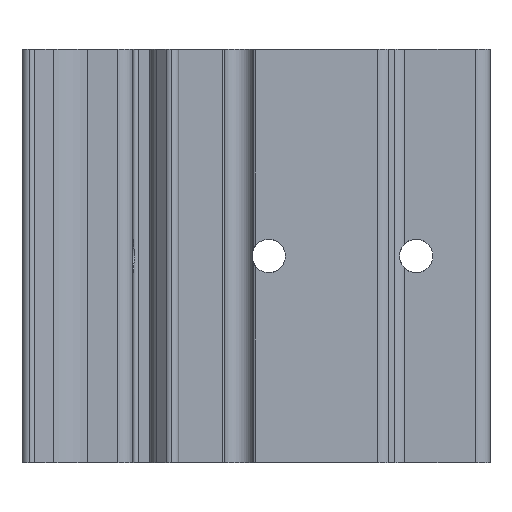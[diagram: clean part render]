
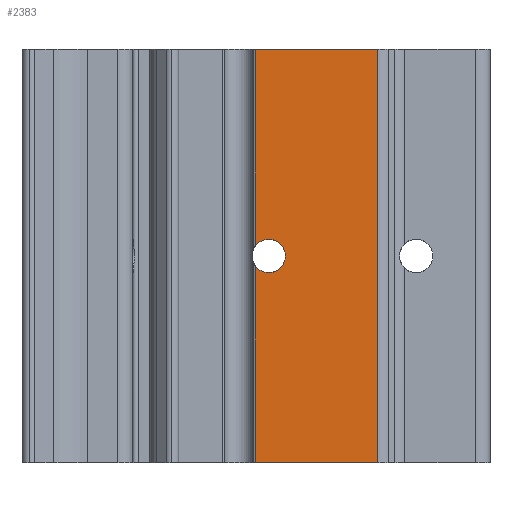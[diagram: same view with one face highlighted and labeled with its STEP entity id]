
A CAD part, left-side view. The second image highlights one B-rep face of the part: STEP entity #2383.
In plain terms, the highlighted planar face has unit normal (-1, 0, 0).
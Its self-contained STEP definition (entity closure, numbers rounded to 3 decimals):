
#31 = CARTESIAN_POINT ( 'NONE',  ( -25.5, 45., 3.4 ) ) ;
#33 = CIRCLE ( 'NONE', #2004, 3.4 ) ;
#63 = EDGE_CURVE ( 'NONE', #500, #2337, #33, .T. ) ;
#82 = CARTESIAN_POINT ( 'NONE',  ( -25.5, 47.77, 42. ) ) ;
#110 = LINE ( 'NONE', #346, #2392 ) ;
#119 = CARTESIAN_POINT ( 'NONE',  ( -25.5, 47.77, 42. ) ) ;
#125 = CARTESIAN_POINT ( 'NONE',  ( -25.5, 45., 0. ) ) ;
#173 = CIRCLE ( 'NONE', #1679, 3.4 ) ;
#183 = ORIENTED_EDGE ( 'NONE', *, *, #1616, .F. ) ;
#211 = DIRECTION ( 'NONE',  ( 0., 0., -1. ) ) ;
#238 = PLANE ( 'NONE',  #1247 ) ;
#291 = AXIS2_PLACEMENT_3D ( 'NONE', #125, #1303, #714 ) ;
#333 = DIRECTION ( 'NONE',  ( 0., 0., -1. ) ) ;
#346 = CARTESIAN_POINT ( 'NONE',  ( -25.5, 47.77, 42. ) ) ;
#370 = ORIENTED_EDGE ( 'NONE', *, *, #2304, .T. ) ;
#401 = CARTESIAN_POINT ( 'NONE',  ( -25.5, 22.82, 42. ) ) ;
#421 = DIRECTION ( 'NONE',  ( 1., 0., 0. ) ) ;
#452 = EDGE_CURVE ( 'NONE', #2337, #2309, #2488, .T. ) ;
#500 = VERTEX_POINT ( 'NONE', #1889 ) ;
#531 = CARTESIAN_POINT ( 'NONE',  ( -25.5, 22.82, 42. ) ) ;
#535 = EDGE_CURVE ( 'NONE', #1950, #1637, #1722, .T. ) ;
#596 = CARTESIAN_POINT ( 'NONE',  ( -25.5, 22.82, -42. ) ) ;
#684 = VECTOR ( 'NONE', #1100, 1000. ) ;
#706 = CARTESIAN_POINT ( 'NONE',  ( -25.5, 22.82, -42. ) ) ;
#714 = DIRECTION ( 'NONE',  ( 0., 0., -1. ) ) ;
#725 = CARTESIAN_POINT ( 'NONE',  ( -25.5, 45., 0. ) ) ;
#748 = CARTESIAN_POINT ( 'NONE',  ( -25.5, 22.82, 42. ) ) ;
#783 = CARTESIAN_POINT ( 'NONE',  ( -25.5, 45., 0. ) ) ;
#789 = CARTESIAN_POINT ( 'NONE',  ( -25.5, 47.77, -42. ) ) ;
#937 = DIRECTION ( 'NONE',  ( 1., 0., 0. ) ) ;
#961 = ORIENTED_EDGE ( 'NONE', *, *, #2394, .T. ) ;
#991 = EDGE_CURVE ( 'NONE', #1182, #2424, #110, .T. ) ;
#1092 = DIRECTION ( 'NONE',  ( 0., 0., -1. ) ) ;
#1100 = DIRECTION ( 'NONE',  ( 0., -1., 0. ) ) ;
#1113 = ORIENTED_EDGE ( 'NONE', *, *, #535, .F. ) ;
#1123 = ORIENTED_EDGE ( 'NONE', *, *, #452, .T. ) ;
#1140 = VECTOR ( 'NONE', #2135, 1000. ) ;
#1162 = DIRECTION ( 'NONE',  ( 1., 0., 0. ) ) ;
#1178 = CARTESIAN_POINT ( 'NONE',  ( -25.5, 45., -3.4 ) ) ;
#1182 = VERTEX_POINT ( 'NONE', #1366 ) ;
#1193 = FACE_OUTER_BOUND ( 'NONE', #1717, .T. ) ;
#1247 = AXIS2_PLACEMENT_3D ( 'NONE', #401, #1162, #1947 ) ;
#1303 = DIRECTION ( 'NONE',  ( 1., 0., 0. ) ) ;
#1324 = LINE ( 'NONE', #706, #684 ) ;
#1366 = CARTESIAN_POINT ( 'NONE',  ( -25.5, 47.77, -1.972 ) ) ;
#1616 = EDGE_CURVE ( 'NONE', #1678, #1950, #2270, .T. ) ;
#1637 = VERTEX_POINT ( 'NONE', #596 ) ;
#1678 = VERTEX_POINT ( 'NONE', #82 ) ;
#1679 = AXIS2_PLACEMENT_3D ( 'NONE', #783, #421, #211 ) ;
#1717 = EDGE_LOOP ( 'NONE', ( #2492, #2109, #1123, #961, #1960, #370, #1113, #183 ) ) ;
#1722 = LINE ( 'NONE', #748, #2111 ) ;
#1889 = CARTESIAN_POINT ( 'NONE',  ( -25.5, 47.77, 1.972 ) ) ;
#1947 = DIRECTION ( 'NONE',  ( 0., 0., -1. ) ) ;
#1950 = VERTEX_POINT ( 'NONE', #531 ) ;
#1960 = ORIENTED_EDGE ( 'NONE', *, *, #991, .T. ) ;
#2004 = AXIS2_PLACEMENT_3D ( 'NONE', #725, #937, #2110 ) ;
#2056 = VECTOR ( 'NONE', #1092, 1000. ) ;
#2109 = ORIENTED_EDGE ( 'NONE', *, *, #63, .T. ) ;
#2110 = DIRECTION ( 'NONE',  ( 0., 0., -1. ) ) ;
#2111 = VECTOR ( 'NONE', #2474, 1000. ) ;
#2135 = DIRECTION ( 'NONE',  ( 0., -1., 0. ) ) ;
#2146 = CARTESIAN_POINT ( 'NONE',  ( -25.5, 22.82, 42. ) ) ;
#2222 = EDGE_CURVE ( 'NONE', #1678, #500, #2465, .T. ) ;
#2270 = LINE ( 'NONE', #2146, #1140 ) ;
#2304 = EDGE_CURVE ( 'NONE', #2424, #1637, #1324, .T. ) ;
#2309 = VERTEX_POINT ( 'NONE', #1178 ) ;
#2337 = VERTEX_POINT ( 'NONE', #31 ) ;
#2383 = ADVANCED_FACE ( 'NONE', ( #1193 ), #238, .F. ) ;
#2392 = VECTOR ( 'NONE', #333, 1000. ) ;
#2394 = EDGE_CURVE ( 'NONE', #2309, #1182, #173, .T. ) ;
#2424 = VERTEX_POINT ( 'NONE', #789 ) ;
#2465 = LINE ( 'NONE', #119, #2056 ) ;
#2474 = DIRECTION ( 'NONE',  ( 0., 0., -1. ) ) ;
#2488 = CIRCLE ( 'NONE', #291, 3.4 ) ;
#2492 = ORIENTED_EDGE ( 'NONE', *, *, #2222, .T. ) ;
